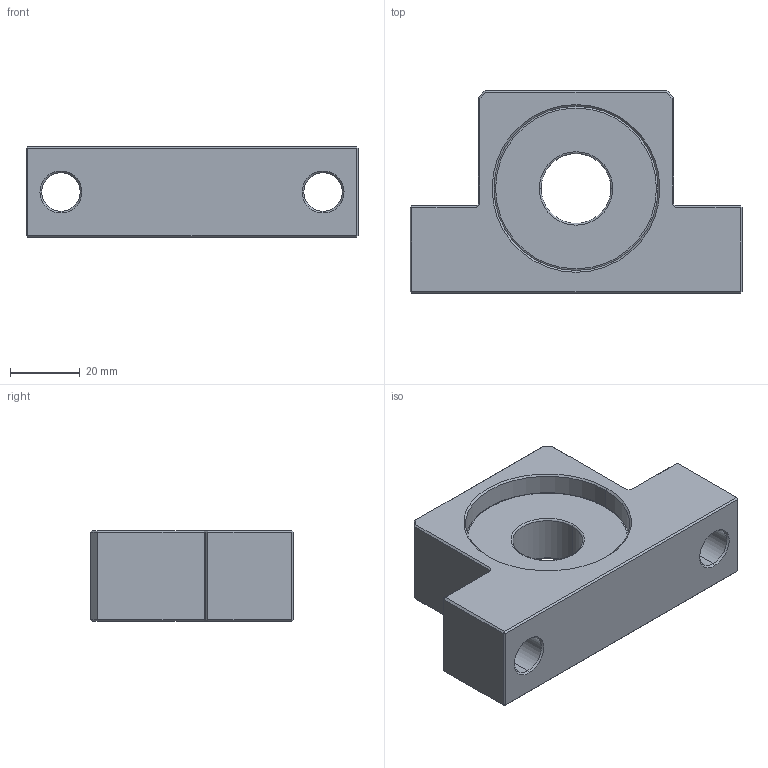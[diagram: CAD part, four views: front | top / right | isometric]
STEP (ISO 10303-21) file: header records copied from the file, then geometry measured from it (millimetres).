
FILE_DESCRIPTION (( 'STEP AP203' ), '1' );
FILE_NAME ('ESGF-20_203.STEP', '2013-02-26T01:32:38', ( '' ), ( '' ), 'SwSTEP 2.0', 'SolidWorks 2012', '' );
FILE_SCHEMA (( 'CONFIG_CONTROL_DESIGN' ));
Length unit declared in the file: millimetre
Products named in the file (1): ESGF-20_203
Bounding box: 95 x 58 x 26 mm (x, y, z)
Volume: 79565.8 mm3; surface area: 19560.6 mm2
Topology: 1 solids, 1 shells, 82 faces, 174 edges, 96 vertices
Faces by surface type: plane 52, cone 12, cylinder 10, torus 8
Entity records: 2215 total; most frequent: DIRECTION 388, CARTESIAN_POINT 353, ORIENTED_EDGE 348, EDGE_CURVE 174, AXIS2_PLACEMENT_3D 131, VECTOR 126, LINE 126, VERTEX_POINT 96
